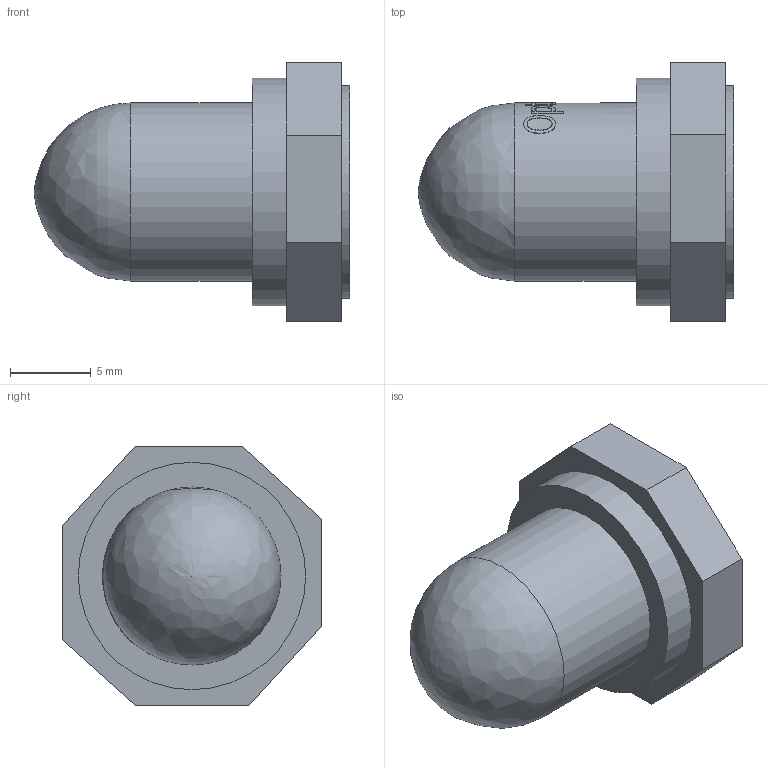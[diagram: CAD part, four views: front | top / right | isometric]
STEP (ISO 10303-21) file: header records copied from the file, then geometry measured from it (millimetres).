
FILE_DESCRIPTION(/* description */ (''),/* implementation_level */ '2;1');
FILE_NAME(/* name */ 'C:\Users\Hani\Desktop\work\CBW-B-DB-38-28\CBW-B-DB-38-28.stp',/* time_stamp */ '2021-10-02T11:31:57-07:00',/* author */ ('Hani'),/* organization */ (''),/* preprocessor_version */ 'ST-DEVELOPER v17',/* originating_system */ 'Autodesk Inventor 2019',/* authorisation */ '');
FILE_SCHEMA (('AUTOMOTIVE_DESIGN { 1 0 10303 214 3 1 1 }'));
Length unit declared in the file: inch
Products named in the file (1): CBW-B-DB-38-28
Bounding box: 19.5 x 16 x 16 mm (x, y, z)
Volume: 912.5 mm3; surface area: 1739 mm2
Topology: 1 solids, 1 shells, 162 faces, 432 edges, 290 vertices
Faces by surface type: plane 73, bspline 69, cylinder 20
Full cylindrical faces by diameter (mm): 9.222 x1, 9.525 x1, 11 x1, 11.85 x1, 12.27 x1, 13.12 x1, 13.859 x1, 14.048 x1
Entity records: 6873 total; most frequent: CARTESIAN_POINT 3164, ORIENTED_EDGE 860, DIRECTION 562, EDGE_CURVE 430, VERTEX_POINT 290, LINE 218, VECTOR 218, EDGE_LOOP 182
